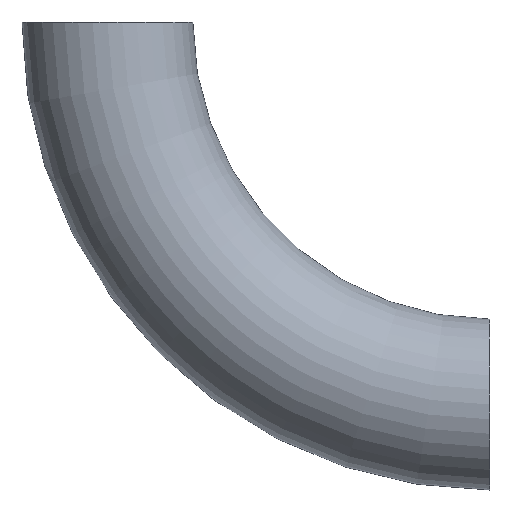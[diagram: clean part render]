
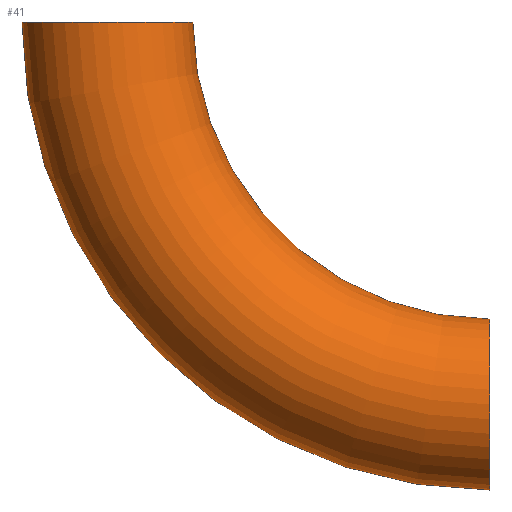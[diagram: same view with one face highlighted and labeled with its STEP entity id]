
A CAD part, front view. The second image highlights one B-rep face of the part: STEP entity #41.
In plain terms, the highlighted toroidal (fillet/blend) face has major radius 135 mm and minor radius 30.15 mm.
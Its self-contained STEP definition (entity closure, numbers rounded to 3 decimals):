
#2 = CIRCLE ( 'NONE', #219, 30.15 ) ;
#5 = EDGE_CURVE ( 'NONE', #228, #182, #2, .T. ) ;
#16 = EDGE_CURVE ( 'NONE', #239, #62, #80, .T. ) ;
#27 = ORIENTED_EDGE ( 'NONE', *, *, #77, .F. ) ;
#32 = CARTESIAN_POINT ( 'NONE',  ( 0., 0., 0. ) ) ;
#41 = ADVANCED_FACE ( 'NONE', ( #171 ), #63, .T. ) ;
#46 = DIRECTION ( 'NONE',  ( 1., 0., 0. ) ) ;
#50 = CARTESIAN_POINT ( 'NONE',  ( -104.85, 0., 0. ) ) ;
#62 = VERTEX_POINT ( 'NONE', #124 ) ;
#63 = TOROIDAL_SURFACE ( 'NONE', #127, 135., 30.15 ) ;
#65 = DIRECTION ( 'NONE',  ( -1., 0., 0. ) ) ;
#66 = AXIS2_PLACEMENT_3D ( 'NONE', #203, #65, #89 ) ;
#77 = EDGE_CURVE ( 'NONE', #239, #228, #153, .T. ) ;
#80 = CIRCLE ( 'NONE', #66, 30.15 ) ;
#84 = DIRECTION ( 'NONE',  ( 0., 1., 0. ) ) ;
#89 = DIRECTION ( 'NONE',  ( 0., 0., 1. ) ) ;
#106 = EDGE_CURVE ( 'NONE', #62, #182, #233, .T. ) ;
#107 = DIRECTION ( 'NONE',  ( 0., 1., 0. ) ) ;
#121 = CARTESIAN_POINT ( 'NONE',  ( -135., 0., 0. ) ) ;
#124 = CARTESIAN_POINT ( 'NONE',  ( 0., 0., -104.85 ) ) ;
#125 = CARTESIAN_POINT ( 'NONE',  ( 0., 0., 0. ) ) ;
#127 = AXIS2_PLACEMENT_3D ( 'NONE', #125, #147, #225 ) ;
#147 = DIRECTION ( 'NONE',  ( 0., 1., 0. ) ) ;
#153 = CIRCLE ( 'NONE', #211, 165.15 ) ;
#166 = DIRECTION ( 'NONE',  ( 0., 0., 1. ) ) ;
#169 = CARTESIAN_POINT ( 'NONE',  ( 0., 0., 0. ) ) ;
#171 = FACE_OUTER_BOUND ( 'NONE', #221, .T. ) ;
#182 = VERTEX_POINT ( 'NONE', #50 ) ;
#184 = ORIENTED_EDGE ( 'NONE', *, *, #16, .T. ) ;
#191 = CARTESIAN_POINT ( 'NONE',  ( 0., 0., -165.15 ) ) ;
#197 = ORIENTED_EDGE ( 'NONE', *, *, #106, .T. ) ;
#203 = CARTESIAN_POINT ( 'NONE',  ( 0., 0., -135. ) ) ;
#206 = AXIS2_PLACEMENT_3D ( 'NONE', #32, #84, #241 ) ;
#211 = AXIS2_PLACEMENT_3D ( 'NONE', #169, #107, #224 ) ;
#213 = CARTESIAN_POINT ( 'NONE',  ( -165.15, 0., 0. ) ) ;
#219 = AXIS2_PLACEMENT_3D ( 'NONE', #121, #166, #46 ) ;
#221 = EDGE_LOOP ( 'NONE', ( #27, #184, #197, #245 ) ) ;
#224 = DIRECTION ( 'NONE',  ( 0., 0., 1. ) ) ;
#225 = DIRECTION ( 'NONE',  ( 0., 0., 1. ) ) ;
#228 = VERTEX_POINT ( 'NONE', #213 ) ;
#233 = CIRCLE ( 'NONE', #206, 104.85 ) ;
#239 = VERTEX_POINT ( 'NONE', #191 ) ;
#241 = DIRECTION ( 'NONE',  ( 0., 0., 1. ) ) ;
#245 = ORIENTED_EDGE ( 'NONE', *, *, #5, .F. ) ;
